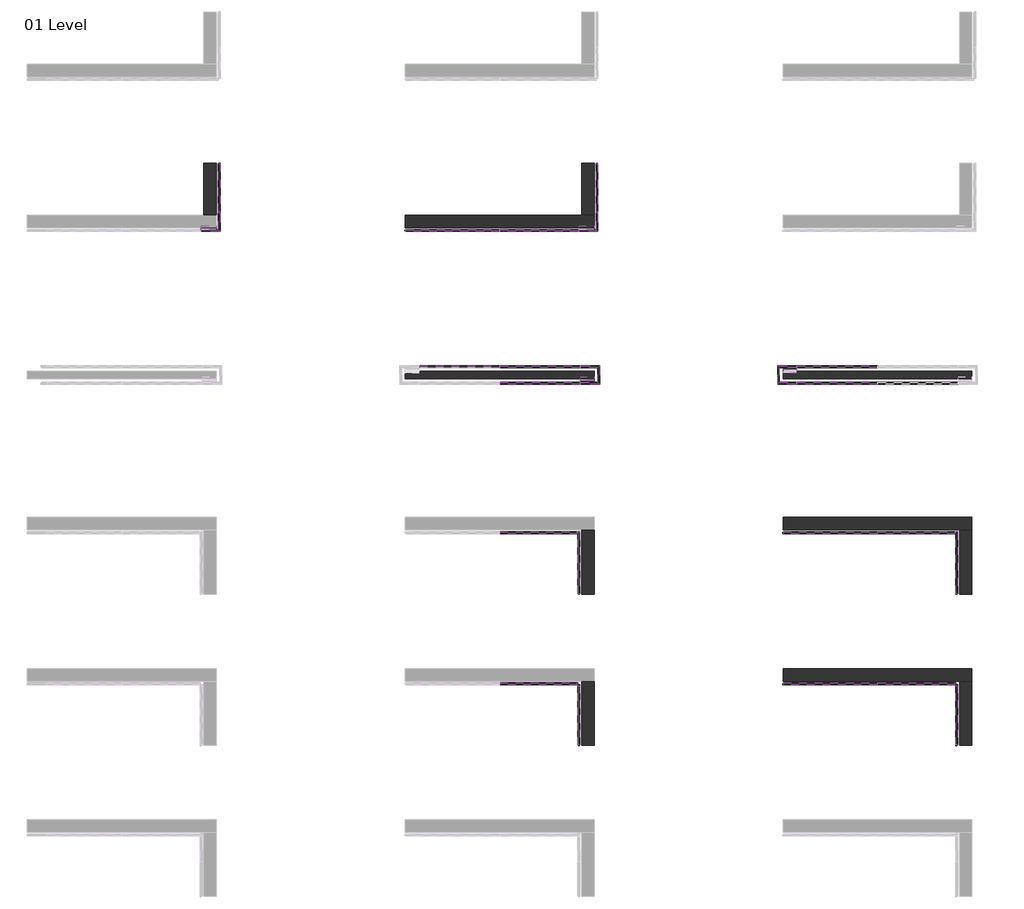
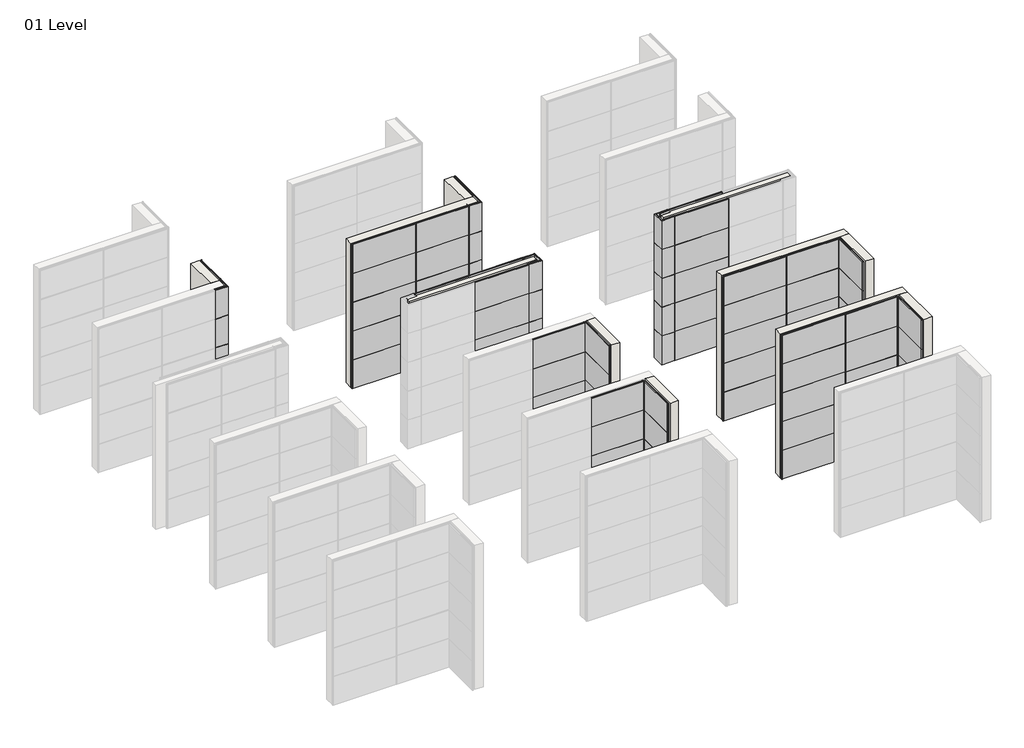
# One storey, part 4 of 9: 136 plates, 11 walls.
"""IFC4 building model written with IfcOpenShell, lengths in millimetres."""

from ifc_helpers import new_model, si_unit, origin, origin_with_axes, place, context, project, spatial, polyline, outline, extrude, faceted_brep, transform, mapped, element, save
from components import plate_b1b6f3ce, plate_0904af44, plate_7be3f5e4, plate_62757427, plate_482b14a9, plate_20576bf5, plate_82d913d7, plate_8f96e1f7, plate_62c4d9ae, plate_ce90e10d, plate_931cbc99, plate_97150e6f, plate_005167d4, plate_5372a68f, plate_7a612063, plate_bb49d724, empty_system_panel_empty_985d2cdc, empty_system_panel_empty_90a12fe6

model = new_model("IFC4")

# Units and contexts
model_context = context("Model", 3, world=origin())
ifc_project = project(units=[si_unit("LENGTHUNIT", "METRE", prefix="MILLI")], contexts=[model_context])

# Site, building, storey
site = spatial("IfcSite", under=ifc_project)
building = spatial("IfcBuilding", under=site)
storey = spatial("IfcBuildingStorey", under=building, Name="01 Level", Elevation=0.0)

# Plates
placement = place(None, origin())
plate_shape = plate_b1b6f3ce(model_context)
element("IfcPlate", 1, ObjectType="Trimo_Qbiss Screen_Normal Panel-HORIZONTAL : HR - B-F", at=placement, inside=storey, context=model_context, shape_type="MappedRepresentation", body=[
    mapped(plate_shape, transform((-23702.2237135, -2027.0213317, 0.0), x_axis=(0.0, -1.0, 0.0), y_axis=(1.0, 0.0, 0.0), z_axis=(0.0, 0.0, 1.0))),
])
element("IfcPlate", 2, ObjectType="Trimo_Qbiss Screen_Normal Panel-HORIZONTAL : HR - B-F", at=placement, inside=storey, context=model_context, shape_type="MappedRepresentation", body=[
    mapped(plate_shape, transform((-23702.2237135, -2027.0213317, 4800.0), x_axis=(0.0, -1.0, 0.0), y_axis=(1.0, 0.0, 0.0), z_axis=(0.0, 0.0, 1.0))),
])
element("IfcPlate", 3, ObjectType="Trimo_Qbiss Screen_Normal Panel-HORIZONTAL : HR - B-F", at=placement, inside=storey, context=model_context, shape_type="MappedRepresentation", body=[
    mapped(plate_shape, transform((-23702.2237135, -2027.0213317, 2400.0), x_axis=(0.0, -1.0, 0.0), y_axis=(1.0, 0.0, 0.0), z_axis=(0.0, 0.0, 1.0))),
])
element("IfcPlate", 4, ObjectType="Trimo_Qbiss Screen_Normal Panel-HORIZONTAL : HR - B-F", at=placement, inside=storey, context=model_context, shape_type="MappedRepresentation", body=[
    mapped(plate_shape, transform((-23702.2237135, -2027.0213317, 3600.0), x_axis=(0.0, -1.0, 0.0), y_axis=(1.0, 0.0, 0.0), z_axis=(0.0, 0.0, 1.0))),
])
element("IfcPlate", 5, ObjectType="Trimo_Qbiss Screen_Normal Panel-HORIZONTAL : HR - B-F", at=placement, inside=storey, context=model_context, shape_type="MappedRepresentation", body=[
    mapped(plate_shape, transform((-23702.2237135, -2027.0213317, 1200.0), x_axis=(0.0, -1.0, 0.0), y_axis=(1.0, 0.0, 0.0), z_axis=(0.0, 0.0, 1.0))),
])
plate_2_shape = plate_0904af44(model_context)
element("IfcPlate", 6, ObjectType="Trimo_Qbiss Screen_Normal Panel-HORIZONTAL : HR - FB", at=placement, inside=storey, context=model_context, shape_type="MappedRepresentation", body=[
    mapped(plate_2_shape, transform((-17452.2237135, -3083.2713317, 0.0), x_axis=(-1.0, 0.0, 0.0), y_axis=(0.0, -1.0, 0.0), z_axis=(0.0, 0.0, 1.0))),
])
element("IfcPlate", 7, ObjectType="Trimo_Qbiss Screen_Normal Panel-HORIZONTAL : HR - FB", at=placement, inside=storey, context=model_context, shape_type="MappedRepresentation", body=[
    mapped(plate_2_shape, transform((-17452.2237135, -3083.2713317, 4800.0), x_axis=(-1.0, 0.0, 0.0), y_axis=(0.0, -1.0, 0.0), z_axis=(0.0, 0.0, 1.0))),
])
element("IfcPlate", 8, ObjectType="Trimo_Qbiss Screen_Normal Panel-HORIZONTAL : HR - FB", at=placement, inside=storey, context=model_context, shape_type="MappedRepresentation", body=[
    mapped(plate_2_shape, transform((-17452.2237135, -3083.2713317, 2400.0), x_axis=(-1.0, 0.0, 0.0), y_axis=(0.0, -1.0, 0.0), z_axis=(0.0, 0.0, 1.0))),
])
element("IfcPlate", 9, ObjectType="Trimo_Qbiss Screen_Normal Panel-HORIZONTAL : HR - FB", at=placement, inside=storey, context=model_context, shape_type="MappedRepresentation", body=[
    mapped(plate_2_shape, transform((-17452.2237135, -3083.2713317, 3600.0), x_axis=(-1.0, 0.0, 0.0), y_axis=(0.0, -1.0, 0.0), z_axis=(0.0, 0.0, 1.0))),
])
element("IfcPlate", 10, ObjectType="Trimo_Qbiss Screen_Normal Panel-HORIZONTAL : HR - FB", at=placement, inside=storey, context=model_context, shape_type="MappedRepresentation", body=[
    mapped(plate_2_shape, transform((-17452.2237135, -3083.2713317, 1200.0), x_axis=(-1.0, 0.0, 0.0), y_axis=(0.0, -1.0, 0.0), z_axis=(0.0, 0.0, 1.0))),
])
plate_3_shape = plate_7be3f5e4(model_context)
element("IfcPlate", 11, ObjectType="Trimo_Qbiss Screen_Normal Panel-HORIZONTAL : HR - FB", at=placement, inside=storey, context=model_context, shape_type="MappedRepresentation", body=[
    mapped(plate_3_shape, transform((-15135.9737135, -7083.2713317, 0.0), x_axis=(-1.0, 0.0, 0.0), y_axis=(0.0, -1.0, 0.0), z_axis=(0.0, 0.0, 1.0))),
])
element("IfcPlate", 12, ObjectType="Trimo_Qbiss Screen_Normal Panel-HORIZONTAL : HR - FB", at=placement, inside=storey, context=model_context, shape_type="MappedRepresentation", body=[
    mapped(plate_3_shape, transform((-15135.9737135, -7083.2713317, 1200.0), x_axis=(-1.0, 0.0, 0.0), y_axis=(0.0, -1.0, 0.0), z_axis=(0.0, 0.0, 1.0))),
])
element("IfcPlate", 13, ObjectType="Trimo_Qbiss Screen_Normal Panel-HORIZONTAL : HR - FB", at=placement, inside=storey, context=model_context, shape_type="MappedRepresentation", body=[
    mapped(plate_3_shape, transform((-15135.9737135, -7083.2713317, 2400.0), x_axis=(-1.0, 0.0, 0.0), y_axis=(0.0, -1.0, 0.0), z_axis=(0.0, 0.0, 1.0))),
])
element("IfcPlate", 14, ObjectType="Trimo_Qbiss Screen_Normal Panel-HORIZONTAL : HR - FB", at=placement, inside=storey, context=model_context, shape_type="MappedRepresentation", body=[
    mapped(plate_3_shape, transform((-15135.9737135, -7083.2713317, 3600.0), x_axis=(-1.0, 0.0, 0.0), y_axis=(0.0, -1.0, 0.0), z_axis=(0.0, 0.0, 1.0))),
])
element("IfcPlate", 15, ObjectType="Trimo_Qbiss Screen_Normal Panel-HORIZONTAL : HR - FB", at=placement, inside=storey, context=model_context, shape_type="MappedRepresentation", body=[
    mapped(plate_3_shape, transform((-15135.9737135, -7083.2713317, 4800.0), x_axis=(-1.0, 0.0, 0.0), y_axis=(0.0, -1.0, 0.0), z_axis=(0.0, 0.0, 1.0))),
])
element("IfcPlate", 16, ObjectType="Trimo_Qbiss Screen_Normal Panel-HORIZONTAL : HR - FB", at=placement, inside=storey, context=model_context, shape_type="MappedRepresentation", body=[
    mapped(plate_3_shape, transform((-17268.4737135, -6883.2713317, 1200.0), x_axis=(1.0, 0.0, 0.0), y_axis=(0.0, 1.0, 0.0), z_axis=(0.0, 0.0, 1.0))),
])
element("IfcPlate", 17, ObjectType="Trimo_Qbiss Screen_Normal Panel-HORIZONTAL : HR - FB", at=placement, inside=storey, context=model_context, shape_type="MappedRepresentation", body=[
    mapped(plate_3_shape, transform((-17268.4737135, -6883.2713317, 2400.0), x_axis=(1.0, 0.0, 0.0), y_axis=(0.0, 1.0, 0.0), z_axis=(0.0, 0.0, 1.0))),
])
element("IfcPlate", 18, ObjectType="Trimo_Qbiss Screen_Normal Panel-HORIZONTAL : HR - FB", at=placement, inside=storey, context=model_context, shape_type="MappedRepresentation", body=[
    mapped(plate_3_shape, transform((-17268.4737135, -6883.2713317, 3600.0), x_axis=(1.0, 0.0, 0.0), y_axis=(0.0, 1.0, 0.0), z_axis=(0.0, 0.0, 1.0))),
])
element("IfcPlate", 19, ObjectType="Trimo_Qbiss Screen_Normal Panel-HORIZONTAL : HR - FB", at=placement, inside=storey, context=model_context, shape_type="MappedRepresentation", body=[
    mapped(plate_3_shape, transform((-17268.4737135, -6883.2713317, 4800.0), x_axis=(1.0, 0.0, 0.0), y_axis=(0.0, 1.0, 0.0), z_axis=(0.0, 0.0, 1.0))),
])
element("IfcPlate", 20, ObjectType="Trimo_Qbiss Screen_Normal Panel-HORIZONTAL : HR - FB", at=placement, inside=storey, context=model_context, shape_type="MappedRepresentation", body=[
    mapped(plate_3_shape, transform((-15135.9737135, -6883.2713317, 0.0), x_axis=(1.0, 0.0, 0.0), y_axis=(0.0, 1.0, 0.0), z_axis=(0.0, 0.0, 1.0))),
])
element("IfcPlate", 21, ObjectType="Trimo_Qbiss Screen_Normal Panel-HORIZONTAL : HR - FB", at=placement, inside=storey, context=model_context, shape_type="MappedRepresentation", body=[
    mapped(plate_3_shape, transform((-15135.9737135, -6883.2713317, 1200.0), x_axis=(1.0, 0.0, 0.0), y_axis=(0.0, 1.0, 0.0), z_axis=(0.0, 0.0, 1.0))),
])
element("IfcPlate", 22, ObjectType="Trimo_Qbiss Screen_Normal Panel-HORIZONTAL : HR - FB", at=placement, inside=storey, context=model_context, shape_type="MappedRepresentation", body=[
    mapped(plate_3_shape, transform((-15135.9737135, -6883.2713317, 2400.0), x_axis=(1.0, 0.0, 0.0), y_axis=(0.0, 1.0, 0.0), z_axis=(0.0, 0.0, 1.0))),
])
element("IfcPlate", 23, ObjectType="Trimo_Qbiss Screen_Normal Panel-HORIZONTAL : HR - FB", at=placement, inside=storey, context=model_context, shape_type="MappedRepresentation", body=[
    mapped(plate_3_shape, transform((-15135.9737135, -6883.2713317, 3600.0), x_axis=(1.0, 0.0, 0.0), y_axis=(0.0, 1.0, 0.0), z_axis=(0.0, 0.0, 1.0))),
])
element("IfcPlate", 24, ObjectType="Trimo_Qbiss Screen_Normal Panel-HORIZONTAL : HR - FB", at=placement, inside=storey, context=model_context, shape_type="MappedRepresentation", body=[
    mapped(plate_3_shape, transform((-15135.9737135, -6883.2713317, 4800.0), x_axis=(1.0, 0.0, 0.0), y_axis=(0.0, 1.0, 0.0), z_axis=(0.0, 0.0, 1.0))),
])
plate_4_shape = plate_62757427(model_context)
element("IfcPlate", 25, ObjectType="Trimo_Qbiss Screen_Normal Panel-HORIZONTAL : HR - FB", at=placement, inside=storey, context=model_context, shape_type="MappedRepresentation", body=[
    mapped(plate_4_shape, transform((-15117.2237135, -11083.2713317, 0.0), x_axis=(-1.0, 0.0, 0.0), y_axis=(0.0, -1.0, 0.0), z_axis=(0.0, 0.0, 1.0))),
])
element("IfcPlate", 26, ObjectType="Trimo_Qbiss Screen_Normal Panel-HORIZONTAL : HR - FB", at=placement, inside=storey, context=model_context, shape_type="MappedRepresentation", body=[
    mapped(plate_4_shape, transform((-15117.2237135, -11083.2713317, 4800.0), x_axis=(-1.0, 0.0, 0.0), y_axis=(0.0, -1.0, 0.0), z_axis=(0.0, 0.0, 1.0))),
])
element("IfcPlate", 27, ObjectType="Trimo_Qbiss Screen_Normal Panel-HORIZONTAL : HR - FB", at=placement, inside=storey, context=model_context, shape_type="MappedRepresentation", body=[
    mapped(plate_4_shape, transform((-15117.2237135, -11083.2713317, 2400.0), x_axis=(-1.0, 0.0, 0.0), y_axis=(0.0, -1.0, 0.0), z_axis=(0.0, 0.0, 1.0))),
])
element("IfcPlate", 28, ObjectType="Trimo_Qbiss Screen_Normal Panel-HORIZONTAL : HR - FB", at=placement, inside=storey, context=model_context, shape_type="MappedRepresentation", body=[
    mapped(plate_4_shape, transform((-15117.2237135, -11083.2713317, 3600.0), x_axis=(-1.0, 0.0, 0.0), y_axis=(0.0, -1.0, 0.0), z_axis=(0.0, 0.0, 1.0))),
])
element("IfcPlate", 29, ObjectType="Trimo_Qbiss Screen_Normal Panel-HORIZONTAL : HR - FB", at=placement, inside=storey, context=model_context, shape_type="MappedRepresentation", body=[
    mapped(plate_4_shape, transform((-15117.2237135, -11083.2713317, 1200.0), x_axis=(-1.0, 0.0, 0.0), y_axis=(0.0, -1.0, 0.0), z_axis=(0.0, 0.0, 1.0))),
])
element("IfcPlate", 30, ObjectType="Trimo_Qbiss Screen_Normal Panel-HORIZONTAL : HR - FB", at=placement, inside=storey, context=model_context, shape_type="MappedRepresentation", body=[
    mapped(plate_4_shape, transform((-15117.2237135, -15083.2713317, 0.0), x_axis=(-1.0, 0.0, 0.0), y_axis=(0.0, -1.0, 0.0), z_axis=(0.0, 0.0, 1.0))),
])
element("IfcPlate", 31, ObjectType="Trimo_Qbiss Screen_Normal Panel-HORIZONTAL : HR - FB", at=placement, inside=storey, context=model_context, shape_type="MappedRepresentation", body=[
    mapped(plate_4_shape, transform((-15117.2237135, -15083.2713317, 4800.0), x_axis=(-1.0, 0.0, 0.0), y_axis=(0.0, -1.0, 0.0), z_axis=(0.0, 0.0, 1.0))),
])
element("IfcPlate", 32, ObjectType="Trimo_Qbiss Screen_Normal Panel-HORIZONTAL : HR - FB", at=placement, inside=storey, context=model_context, shape_type="MappedRepresentation", body=[
    mapped(plate_4_shape, transform((-15117.2237135, -15083.2713317, 2400.0), x_axis=(-1.0, 0.0, 0.0), y_axis=(0.0, -1.0, 0.0), z_axis=(0.0, 0.0, 1.0))),
])
element("IfcPlate", 33, ObjectType="Trimo_Qbiss Screen_Normal Panel-HORIZONTAL : HR - FB", at=placement, inside=storey, context=model_context, shape_type="MappedRepresentation", body=[
    mapped(plate_4_shape, transform((-15117.2237135, -15083.2713317, 3600.0), x_axis=(-1.0, 0.0, 0.0), y_axis=(0.0, -1.0, 0.0), z_axis=(0.0, 0.0, 1.0))),
])
element("IfcPlate", 34, ObjectType="Trimo_Qbiss Screen_Normal Panel-HORIZONTAL : HR - FB", at=placement, inside=storey, context=model_context, shape_type="MappedRepresentation", body=[
    mapped(plate_4_shape, transform((-15117.2237135, -15083.2713317, 1200.0), x_axis=(-1.0, 0.0, 0.0), y_axis=(0.0, -1.0, 0.0), z_axis=(0.0, 0.0, 1.0))),
])
plate_5_shape = plate_482b14a9(model_context)
element("IfcPlate", 35, ObjectType="Trimo_Qbiss Screen_Normal Panel-HORIZONTAL : HR - FB", at=placement, inside=storey, context=model_context, shape_type="MappedRepresentation", body=[
    mapped(plate_5_shape, transform((-13702.2237135, -2027.0213317, 0.0), x_axis=(0.0, -1.0, 0.0), y_axis=(1.0, 0.0, 0.0), z_axis=(0.0, 0.0, 1.0))),
])
element("IfcPlate", 36, ObjectType="Trimo_Qbiss Screen_Normal Panel-HORIZONTAL : HR - FB", at=placement, inside=storey, context=model_context, shape_type="MappedRepresentation", body=[
    mapped(plate_5_shape, transform((-13702.2237135, -2027.0213317, 4800.0), x_axis=(0.0, -1.0, 0.0), y_axis=(1.0, 0.0, 0.0), z_axis=(0.0, 0.0, 1.0))),
])
element("IfcPlate", 37, ObjectType="Trimo_Qbiss Screen_Normal Panel-HORIZONTAL : HR - FB", at=placement, inside=storey, context=model_context, shape_type="MappedRepresentation", body=[
    mapped(plate_5_shape, transform((-13702.2237135, -2027.0213317, 2400.0), x_axis=(0.0, -1.0, 0.0), y_axis=(1.0, 0.0, 0.0), z_axis=(0.0, 0.0, 1.0))),
])
element("IfcPlate", 38, ObjectType="Trimo_Qbiss Screen_Normal Panel-HORIZONTAL : HR - FB", at=placement, inside=storey, context=model_context, shape_type="MappedRepresentation", body=[
    mapped(plate_5_shape, transform((-13702.2237135, -2027.0213317, 3600.0), x_axis=(0.0, -1.0, 0.0), y_axis=(1.0, 0.0, 0.0), z_axis=(0.0, 0.0, 1.0))),
])
element("IfcPlate", 39, ObjectType="Trimo_Qbiss Screen_Normal Panel-HORIZONTAL : HR - FB", at=placement, inside=storey, context=model_context, shape_type="MappedRepresentation", body=[
    mapped(plate_5_shape, transform((-13702.2237135, -2027.0213317, 1200.0), x_axis=(0.0, -1.0, 0.0), y_axis=(1.0, 0.0, 0.0), z_axis=(0.0, 0.0, 1.0))),
])
plate_6_shape = plate_20576bf5(model_context)
element("IfcPlate", 40, ObjectType="Trimo_Qbiss Screen_Normal Panel-HORIZONTAL : HR - FB", at=placement, inside=storey, context=model_context, shape_type="MappedRepresentation", body=[
    mapped(plate_6_shape, transform((-14032.2237135, -11933.2713317, 0.0), x_axis=(0.0, 1.0, 0.0), y_axis=(-1.0, 0.0, 0.0), z_axis=(0.0, 0.0, 1.0))),
])
element("IfcPlate", 41, ObjectType="Trimo_Qbiss Screen_Normal Panel-HORIZONTAL : HR - FB", at=placement, inside=storey, context=model_context, shape_type="MappedRepresentation", body=[
    mapped(plate_6_shape, transform((-14032.2237135, -11933.2713317, 4800.0), x_axis=(0.0, 1.0, 0.0), y_axis=(-1.0, 0.0, 0.0), z_axis=(0.0, 0.0, 1.0))),
])
element("IfcPlate", 42, ObjectType="Trimo_Qbiss Screen_Normal Panel-HORIZONTAL : HR - FB", at=placement, inside=storey, context=model_context, shape_type="MappedRepresentation", body=[
    mapped(plate_6_shape, transform((-14032.2237135, -11933.2713317, 2400.0), x_axis=(0.0, 1.0, 0.0), y_axis=(-1.0, 0.0, 0.0), z_axis=(0.0, 0.0, 1.0))),
])
element("IfcPlate", 43, ObjectType="Trimo_Qbiss Screen_Normal Panel-HORIZONTAL : HR - FB", at=placement, inside=storey, context=model_context, shape_type="MappedRepresentation", body=[
    mapped(plate_6_shape, transform((-14032.2237135, -11933.2713317, 3600.0), x_axis=(0.0, 1.0, 0.0), y_axis=(-1.0, 0.0, 0.0), z_axis=(0.0, 0.0, 1.0))),
])
element("IfcPlate", 44, ObjectType="Trimo_Qbiss Screen_Normal Panel-HORIZONTAL : HR - FB", at=placement, inside=storey, context=model_context, shape_type="MappedRepresentation", body=[
    mapped(plate_6_shape, transform((-14032.2237135, -11933.2713317, 1200.0), x_axis=(0.0, 1.0, 0.0), y_axis=(-1.0, 0.0, 0.0), z_axis=(0.0, 0.0, 1.0))),
])
plate_7_shape = plate_82d913d7(model_context)
element("IfcPlate", 45, ObjectType="Trimo_Qbiss Screen_Normal Panel-HORIZONTAL : HR - FB", at=placement, inside=storey, context=model_context, shape_type="MappedRepresentation", body=[
    mapped(plate_7_shape, transform((-14032.2237135, -15933.2713317, 0.0), x_axis=(0.0, 1.0, 0.0), y_axis=(-1.0, 0.0, 0.0), z_axis=(0.0, 0.0, 1.0))),
])
element("IfcPlate", 46, ObjectType="Trimo_Qbiss Screen_Normal Panel-HORIZONTAL : HR - FB", at=placement, inside=storey, context=model_context, shape_type="MappedRepresentation", body=[
    mapped(plate_7_shape, transform((-14032.2237135, -15933.2713317, 4800.0), x_axis=(0.0, 1.0, 0.0), y_axis=(-1.0, 0.0, 0.0), z_axis=(0.0, 0.0, 1.0))),
])
element("IfcPlate", 47, ObjectType="Trimo_Qbiss Screen_Normal Panel-HORIZONTAL : HR - FB", at=placement, inside=storey, context=model_context, shape_type="MappedRepresentation", body=[
    mapped(plate_7_shape, transform((-14032.2237135, -15933.2713317, 2400.0), x_axis=(0.0, 1.0, 0.0), y_axis=(-1.0, 0.0, 0.0), z_axis=(0.0, 0.0, 1.0))),
])
element("IfcPlate", 48, ObjectType="Trimo_Qbiss Screen_Normal Panel-HORIZONTAL : HR - FB", at=placement, inside=storey, context=model_context, shape_type="MappedRepresentation", body=[
    mapped(plate_7_shape, transform((-14032.2237135, -15933.2713317, 3600.0), x_axis=(0.0, 1.0, 0.0), y_axis=(-1.0, 0.0, 0.0), z_axis=(0.0, 0.0, 1.0))),
])
element("IfcPlate", 49, ObjectType="Trimo_Qbiss Screen_Normal Panel-HORIZONTAL : HR - FB", at=placement, inside=storey, context=model_context, shape_type="MappedRepresentation", body=[
    mapped(plate_7_shape, transform((-14032.2237135, -15933.2713317, 1200.0), x_axis=(0.0, 1.0, 0.0), y_axis=(-1.0, 0.0, 0.0), z_axis=(0.0, 0.0, 1.0))),
])
plate_8_shape = plate_8f96e1f7(model_context)
element("IfcPlate", 50, ObjectType="Trimo_Qbiss Screen_Normal Panel-HORIZONTAL : HR - FB", at=placement, inside=storey, context=model_context, shape_type="MappedRepresentation", body=[
    mapped(plate_8_shape, transform((-15158.4737135, -3083.2713317, 0.0), x_axis=(-1.0, 0.0, 0.0), y_axis=(0.0, -1.0, 0.0), z_axis=(0.0, 0.0, 1.0))),
])
element("IfcPlate", 51, ObjectType="Trimo_Qbiss Screen_Normal Panel-HORIZONTAL : HR - FB", at=placement, inside=storey, context=model_context, shape_type="MappedRepresentation", body=[
    mapped(plate_8_shape, transform((-15158.4737135, -3083.2713317, 1200.0), x_axis=(-1.0, 0.0, 0.0), y_axis=(0.0, -1.0, 0.0), z_axis=(0.0, 0.0, 1.0))),
])
element("IfcPlate", 52, ObjectType="Trimo_Qbiss Screen_Normal Panel-HORIZONTAL : HR - FB", at=placement, inside=storey, context=model_context, shape_type="MappedRepresentation", body=[
    mapped(plate_8_shape, transform((-15158.4737135, -3083.2713317, 2400.0), x_axis=(-1.0, 0.0, 0.0), y_axis=(0.0, -1.0, 0.0), z_axis=(0.0, 0.0, 1.0))),
])
element("IfcPlate", 53, ObjectType="Trimo_Qbiss Screen_Normal Panel-HORIZONTAL : HR - FB", at=placement, inside=storey, context=model_context, shape_type="MappedRepresentation", body=[
    mapped(plate_8_shape, transform((-15158.4737135, -3083.2713317, 3600.0), x_axis=(-1.0, 0.0, 0.0), y_axis=(0.0, -1.0, 0.0), z_axis=(0.0, 0.0, 1.0))),
])
element("IfcPlate", 54, ObjectType="Trimo_Qbiss Screen_Normal Panel-HORIZONTAL : HR - FB", at=placement, inside=storey, context=model_context, shape_type="MappedRepresentation", body=[
    mapped(plate_8_shape, transform((-15158.4737135, -3083.2713317, 4800.0), x_axis=(-1.0, 0.0, 0.0), y_axis=(0.0, -1.0, 0.0), z_axis=(0.0, 0.0, 1.0))),
])
plate_9_shape = plate_62c4d9ae(model_context)
element("IfcPlate", 55, ObjectType="Trimo_Qbiss Screen_Normal Panel-HORIZONTAL : HR - FB-F", at=placement, inside=storey, context=model_context, shape_type="MappedRepresentation", body=[
    mapped(plate_9_shape, transform((-7452.2237135, -11083.2713317, 0.0), x_axis=(-1.0, 0.0, 0.0), y_axis=(0.0, -1.0, 0.0), z_axis=(0.0, 0.0, 1.0))),
])
element("IfcPlate", 56, ObjectType="Trimo_Qbiss Screen_Normal Panel-HORIZONTAL : HR - FB-F", at=placement, inside=storey, context=model_context, shape_type="MappedRepresentation", body=[
    mapped(plate_9_shape, transform((-7452.2237135, -11083.2713317, 4800.0), x_axis=(-1.0, 0.0, 0.0), y_axis=(0.0, -1.0, 0.0), z_axis=(0.0, 0.0, 1.0))),
])
element("IfcPlate", 57, ObjectType="Trimo_Qbiss Screen_Normal Panel-HORIZONTAL : HR - FB-F", at=placement, inside=storey, context=model_context, shape_type="MappedRepresentation", body=[
    mapped(plate_9_shape, transform((-7452.2237135, -11083.2713317, 2400.0), x_axis=(-1.0, 0.0, 0.0), y_axis=(0.0, -1.0, 0.0), z_axis=(0.0, 0.0, 1.0))),
])
element("IfcPlate", 58, ObjectType="Trimo_Qbiss Screen_Normal Panel-HORIZONTAL : HR - FB-F", at=placement, inside=storey, context=model_context, shape_type="MappedRepresentation", body=[
    mapped(plate_9_shape, transform((-7452.2237135, -11083.2713317, 3600.0), x_axis=(-1.0, 0.0, 0.0), y_axis=(0.0, -1.0, 0.0), z_axis=(0.0, 0.0, 1.0))),
])
element("IfcPlate", 59, ObjectType="Trimo_Qbiss Screen_Normal Panel-HORIZONTAL : HR - FB-F", at=placement, inside=storey, context=model_context, shape_type="MappedRepresentation", body=[
    mapped(plate_9_shape, transform((-7452.2237135, -11083.2713317, 1200.0), x_axis=(-1.0, 0.0, 0.0), y_axis=(0.0, -1.0, 0.0), z_axis=(0.0, 0.0, 1.0))),
])
element("IfcPlate", 60, ObjectType="Trimo_Qbiss Screen_Normal Panel-HORIZONTAL : HR - FB-F", at=placement, inside=storey, context=model_context, shape_type="MappedRepresentation", body=[
    mapped(plate_9_shape, transform((-7452.2237135, -15083.2713317, 0.0), x_axis=(-1.0, 0.0, 0.0), y_axis=(0.0, -1.0, 0.0), z_axis=(0.0, 0.0, 1.0))),
])
element("IfcPlate", 61, ObjectType="Trimo_Qbiss Screen_Normal Panel-HORIZONTAL : HR - FB-F", at=placement, inside=storey, context=model_context, shape_type="MappedRepresentation", body=[
    mapped(plate_9_shape, transform((-7452.2237135, -15083.2713317, 4800.0), x_axis=(-1.0, 0.0, 0.0), y_axis=(0.0, -1.0, 0.0), z_axis=(0.0, 0.0, 1.0))),
])
element("IfcPlate", 62, ObjectType="Trimo_Qbiss Screen_Normal Panel-HORIZONTAL : HR - FB-F", at=placement, inside=storey, context=model_context, shape_type="MappedRepresentation", body=[
    mapped(plate_9_shape, transform((-7452.2237135, -15083.2713317, 2400.0), x_axis=(-1.0, 0.0, 0.0), y_axis=(0.0, -1.0, 0.0), z_axis=(0.0, 0.0, 1.0))),
])
element("IfcPlate", 63, ObjectType="Trimo_Qbiss Screen_Normal Panel-HORIZONTAL : HR - FB-F", at=placement, inside=storey, context=model_context, shape_type="MappedRepresentation", body=[
    mapped(plate_9_shape, transform((-7452.2237135, -15083.2713317, 3600.0), x_axis=(-1.0, 0.0, 0.0), y_axis=(0.0, -1.0, 0.0), z_axis=(0.0, 0.0, 1.0))),
])
element("IfcPlate", 64, ObjectType="Trimo_Qbiss Screen_Normal Panel-HORIZONTAL : HR - FB-F", at=placement, inside=storey, context=model_context, shape_type="MappedRepresentation", body=[
    mapped(plate_9_shape, transform((-7452.2237135, -15083.2713317, 1200.0), x_axis=(-1.0, 0.0, 0.0), y_axis=(0.0, -1.0, 0.0), z_axis=(0.0, 0.0, 1.0))),
])
plate_10_shape = plate_ce90e10d(model_context)
element("IfcPlate", 65, ObjectType="Trimo_Qbiss Screen_Normal Panel-HORIZONTAL : HR - FB-F", at=placement, inside=storey, context=model_context, shape_type="MappedRepresentation", body=[
    mapped(plate_10_shape, transform((-7268.4737135, -7083.2713317, 0.0), x_axis=(-1.0, 0.0, 0.0), y_axis=(0.0, -1.0, 0.0), z_axis=(0.0, 0.0, 1.0))),
])
element("IfcPlate", 66, ObjectType="Trimo_Qbiss Screen_Normal Panel-HORIZONTAL : HR - FB-F", at=placement, inside=storey, context=model_context, shape_type="MappedRepresentation", body=[
    mapped(plate_10_shape, transform((-7268.4737135, -7083.2713317, 4800.0), x_axis=(-1.0, 0.0, 0.0), y_axis=(0.0, -1.0, 0.0), z_axis=(0.0, 0.0, 1.0))),
])
element("IfcPlate", 67, ObjectType="Trimo_Qbiss Screen_Normal Panel-HORIZONTAL : HR - FB-F", at=placement, inside=storey, context=model_context, shape_type="MappedRepresentation", body=[
    mapped(plate_10_shape, transform((-7268.4737135, -7083.2713317, 2400.0), x_axis=(-1.0, 0.0, 0.0), y_axis=(0.0, -1.0, 0.0), z_axis=(0.0, 0.0, 1.0))),
])
element("IfcPlate", 68, ObjectType="Trimo_Qbiss Screen_Normal Panel-HORIZONTAL : HR - FB-F", at=placement, inside=storey, context=model_context, shape_type="MappedRepresentation", body=[
    mapped(plate_10_shape, transform((-7268.4737135, -7083.2713317, 3600.0), x_axis=(-1.0, 0.0, 0.0), y_axis=(0.0, -1.0, 0.0), z_axis=(0.0, 0.0, 1.0))),
])
element("IfcPlate", 69, ObjectType="Trimo_Qbiss Screen_Normal Panel-HORIZONTAL : HR - FB-F", at=placement, inside=storey, context=model_context, shape_type="MappedRepresentation", body=[
    mapped(plate_10_shape, transform((-7268.4737135, -7083.2713317, 1200.0), x_axis=(-1.0, 0.0, 0.0), y_axis=(0.0, -1.0, 0.0), z_axis=(0.0, 0.0, 1.0))),
])
element("IfcPlate", 70, ObjectType="Trimo_Qbiss Screen_Normal Panel-HORIZONTAL : HR - FB-F", at=placement, inside=storey, context=model_context, shape_type="MappedRepresentation", body=[
    mapped(plate_10_shape, transform((-5135.9737135, -7083.2713317, 0.0), x_axis=(-1.0, 0.0, 0.0), y_axis=(0.0, -1.0, 0.0), z_axis=(0.0, 0.0, 1.0))),
])
element("IfcPlate", 71, ObjectType="Trimo_Qbiss Screen_Normal Panel-HORIZONTAL : HR - FB-F", at=placement, inside=storey, context=model_context, shape_type="MappedRepresentation", body=[
    mapped(plate_10_shape, transform((-5135.9737135, -7083.2713317, 1200.0), x_axis=(-1.0, 0.0, 0.0), y_axis=(0.0, -1.0, 0.0), z_axis=(0.0, 0.0, 1.0))),
])
element("IfcPlate", 72, ObjectType="Trimo_Qbiss Screen_Normal Panel-HORIZONTAL : HR - FB-F", at=placement, inside=storey, context=model_context, shape_type="MappedRepresentation", body=[
    mapped(plate_10_shape, transform((-7268.4737135, -6883.2713317, 0.0), x_axis=(1.0, 0.0, 0.0), y_axis=(0.0, 1.0, 0.0), z_axis=(0.0, 0.0, 1.0))),
])
element("IfcPlate", 73, ObjectType="Trimo_Qbiss Screen_Normal Panel-HORIZONTAL : HR - FB-F", at=placement, inside=storey, context=model_context, shape_type="MappedRepresentation", body=[
    mapped(plate_10_shape, transform((-7268.4737135, -6883.2713317, 1200.0), x_axis=(1.0, 0.0, 0.0), y_axis=(0.0, 1.0, 0.0), z_axis=(0.0, 0.0, 1.0))),
])
element("IfcPlate", 74, ObjectType="Trimo_Qbiss Screen_Normal Panel-HORIZONTAL : HR - FB-F", at=placement, inside=storey, context=model_context, shape_type="MappedRepresentation", body=[
    mapped(plate_10_shape, transform((-7268.4737135, -6883.2713317, 2400.0), x_axis=(1.0, 0.0, 0.0), y_axis=(0.0, 1.0, 0.0), z_axis=(0.0, 0.0, 1.0))),
])
element("IfcPlate", 75, ObjectType="Trimo_Qbiss Screen_Normal Panel-HORIZONTAL : HR - FB-F", at=placement, inside=storey, context=model_context, shape_type="MappedRepresentation", body=[
    mapped(plate_10_shape, transform((-7268.4737135, -6883.2713317, 3600.0), x_axis=(1.0, 0.0, 0.0), y_axis=(0.0, 1.0, 0.0), z_axis=(0.0, 0.0, 1.0))),
])
element("IfcPlate", 76, ObjectType="Trimo_Qbiss Screen_Normal Panel-HORIZONTAL : HR - FB-F", at=placement, inside=storey, context=model_context, shape_type="MappedRepresentation", body=[
    mapped(plate_10_shape, transform((-7268.4737135, -6883.2713317, 4800.0), x_axis=(1.0, 0.0, 0.0), y_axis=(0.0, 1.0, 0.0), z_axis=(0.0, 0.0, 1.0))),
])
plate_11_shape = plate_931cbc99(model_context)
element("IfcPlate", 77, ObjectType="Trimo_Qbiss Screen_Normal Panel-HORIZONTAL : HR - FB-F", at=placement, inside=storey, context=model_context, shape_type="MappedRepresentation", body=[
    mapped(plate_11_shape, transform((-5117.2237135, -11083.2713317, 0.0), x_axis=(-1.0, 0.0, 0.0), y_axis=(0.0, -1.0, 0.0), z_axis=(0.0, 0.0, 1.0))),
])
element("IfcPlate", 78, ObjectType="Trimo_Qbiss Screen_Normal Panel-HORIZONTAL : HR - FB-F", at=placement, inside=storey, context=model_context, shape_type="MappedRepresentation", body=[
    mapped(plate_11_shape, transform((-5117.2237135, -11083.2713317, 4800.0), x_axis=(-1.0, 0.0, 0.0), y_axis=(0.0, -1.0, 0.0), z_axis=(0.0, 0.0, 1.0))),
])
element("IfcPlate", 79, ObjectType="Trimo_Qbiss Screen_Normal Panel-HORIZONTAL : HR - FB-F", at=placement, inside=storey, context=model_context, shape_type="MappedRepresentation", body=[
    mapped(plate_11_shape, transform((-5117.2237135, -11083.2713317, 2400.0), x_axis=(-1.0, 0.0, 0.0), y_axis=(0.0, -1.0, 0.0), z_axis=(0.0, 0.0, 1.0))),
])
element("IfcPlate", 80, ObjectType="Trimo_Qbiss Screen_Normal Panel-HORIZONTAL : HR - FB-F", at=placement, inside=storey, context=model_context, shape_type="MappedRepresentation", body=[
    mapped(plate_11_shape, transform((-5117.2237135, -11083.2713317, 3600.0), x_axis=(-1.0, 0.0, 0.0), y_axis=(0.0, -1.0, 0.0), z_axis=(0.0, 0.0, 1.0))),
])
element("IfcPlate", 81, ObjectType="Trimo_Qbiss Screen_Normal Panel-HORIZONTAL : HR - FB-F", at=placement, inside=storey, context=model_context, shape_type="MappedRepresentation", body=[
    mapped(plate_11_shape, transform((-5117.2237135, -11083.2713317, 1200.0), x_axis=(-1.0, 0.0, 0.0), y_axis=(0.0, -1.0, 0.0), z_axis=(0.0, 0.0, 1.0))),
])
element("IfcPlate", 82, ObjectType="Trimo_Qbiss Screen_Normal Panel-HORIZONTAL : HR - FB-F", at=placement, inside=storey, context=model_context, shape_type="MappedRepresentation", body=[
    mapped(plate_11_shape, transform((-5117.2237135, -15083.2713317, 0.0), x_axis=(-1.0, 0.0, 0.0), y_axis=(0.0, -1.0, 0.0), z_axis=(0.0, 0.0, 1.0))),
])
element("IfcPlate", 83, ObjectType="Trimo_Qbiss Screen_Normal Panel-HORIZONTAL : HR - FB-F", at=placement, inside=storey, context=model_context, shape_type="MappedRepresentation", body=[
    mapped(plate_11_shape, transform((-5117.2237135, -15083.2713317, 4800.0), x_axis=(-1.0, 0.0, 0.0), y_axis=(0.0, -1.0, 0.0), z_axis=(0.0, 0.0, 1.0))),
])
element("IfcPlate", 84, ObjectType="Trimo_Qbiss Screen_Normal Panel-HORIZONTAL : HR - FB-F", at=placement, inside=storey, context=model_context, shape_type="MappedRepresentation", body=[
    mapped(plate_11_shape, transform((-5117.2237135, -15083.2713317, 2400.0), x_axis=(-1.0, 0.0, 0.0), y_axis=(0.0, -1.0, 0.0), z_axis=(0.0, 0.0, 1.0))),
])
element("IfcPlate", 85, ObjectType="Trimo_Qbiss Screen_Normal Panel-HORIZONTAL : HR - FB-F", at=placement, inside=storey, context=model_context, shape_type="MappedRepresentation", body=[
    mapped(plate_11_shape, transform((-5117.2237135, -15083.2713317, 3600.0), x_axis=(-1.0, 0.0, 0.0), y_axis=(0.0, -1.0, 0.0), z_axis=(0.0, 0.0, 1.0))),
])
element("IfcPlate", 86, ObjectType="Trimo_Qbiss Screen_Normal Panel-HORIZONTAL : HR - FB-F", at=placement, inside=storey, context=model_context, shape_type="MappedRepresentation", body=[
    mapped(plate_11_shape, transform((-5117.2237135, -15083.2713317, 1200.0), x_axis=(-1.0, 0.0, 0.0), y_axis=(0.0, -1.0, 0.0), z_axis=(0.0, 0.0, 1.0))),
])
plate_12_shape = plate_97150e6f(model_context)
element("IfcPlate", 87, ObjectType="Trimo_Qbiss Screen_Normal Panel-HORIZONTAL : HR - FB-F", at=placement, inside=storey, context=model_context, shape_type="MappedRepresentation", body=[
    mapped(plate_12_shape, transform((-4032.2237135, -11933.2713317, 0.0), x_axis=(0.0, 1.0, 0.0), y_axis=(-1.0, 0.0, 0.0), z_axis=(0.0, 0.0, 1.0))),
])
element("IfcPlate", 88, ObjectType="Trimo_Qbiss Screen_Normal Panel-HORIZONTAL : HR - FB-F", at=placement, inside=storey, context=model_context, shape_type="MappedRepresentation", body=[
    mapped(plate_12_shape, transform((-4032.2237135, -11933.2713317, 4800.0), x_axis=(0.0, 1.0, 0.0), y_axis=(-1.0, 0.0, 0.0), z_axis=(0.0, 0.0, 1.0))),
])
element("IfcPlate", 89, ObjectType="Trimo_Qbiss Screen_Normal Panel-HORIZONTAL : HR - FB-F", at=placement, inside=storey, context=model_context, shape_type="MappedRepresentation", body=[
    mapped(plate_12_shape, transform((-4032.2237135, -11933.2713317, 2400.0), x_axis=(0.0, 1.0, 0.0), y_axis=(-1.0, 0.0, 0.0), z_axis=(0.0, 0.0, 1.0))),
])
element("IfcPlate", 90, ObjectType="Trimo_Qbiss Screen_Normal Panel-HORIZONTAL : HR - FB-F", at=placement, inside=storey, context=model_context, shape_type="MappedRepresentation", body=[
    mapped(plate_12_shape, transform((-4032.2237135, -11933.2713317, 3600.0), x_axis=(0.0, 1.0, 0.0), y_axis=(-1.0, 0.0, 0.0), z_axis=(0.0, 0.0, 1.0))),
])
element("IfcPlate", 91, ObjectType="Trimo_Qbiss Screen_Normal Panel-HORIZONTAL : HR - FB-F", at=placement, inside=storey, context=model_context, shape_type="MappedRepresentation", body=[
    mapped(plate_12_shape, transform((-4032.2237135, -11933.2713317, 1200.0), x_axis=(0.0, 1.0, 0.0), y_axis=(-1.0, 0.0, 0.0), z_axis=(0.0, 0.0, 1.0))),
])
plate_13_shape = plate_005167d4(model_context)
element("IfcPlate", 92, ObjectType="Trimo_Qbiss Screen_Normal Panel-HORIZONTAL : HR - FB-F", at=placement, inside=storey, context=model_context, shape_type="MappedRepresentation", body=[
    mapped(plate_13_shape, transform((-4032.2237135, -15933.2713317, 0.0), x_axis=(0.0, 1.0, 0.0), y_axis=(-1.0, 0.0, 0.0), z_axis=(0.0, 0.0, 1.0))),
])
element("IfcPlate", 93, ObjectType="Trimo_Qbiss Screen_Normal Panel-HORIZONTAL : HR - FB-F", at=placement, inside=storey, context=model_context, shape_type="MappedRepresentation", body=[
    mapped(plate_13_shape, transform((-4032.2237135, -15933.2713317, 4800.0), x_axis=(0.0, 1.0, 0.0), y_axis=(-1.0, 0.0, 0.0), z_axis=(0.0, 0.0, 1.0))),
])
element("IfcPlate", 94, ObjectType="Trimo_Qbiss Screen_Normal Panel-HORIZONTAL : HR - FB-F", at=placement, inside=storey, context=model_context, shape_type="MappedRepresentation", body=[
    mapped(plate_13_shape, transform((-4032.2237135, -15933.2713317, 2400.0), x_axis=(0.0, 1.0, 0.0), y_axis=(-1.0, 0.0, 0.0), z_axis=(0.0, 0.0, 1.0))),
])
element("IfcPlate", 95, ObjectType="Trimo_Qbiss Screen_Normal Panel-HORIZONTAL : HR - FB-F", at=placement, inside=storey, context=model_context, shape_type="MappedRepresentation", body=[
    mapped(plate_13_shape, transform((-4032.2237135, -15933.2713317, 3600.0), x_axis=(0.0, 1.0, 0.0), y_axis=(-1.0, 0.0, 0.0), z_axis=(0.0, 0.0, 1.0))),
])
element("IfcPlate", 96, ObjectType="Trimo_Qbiss Screen_Normal Panel-HORIZONTAL : HR - FB-F", at=placement, inside=storey, context=model_context, shape_type="MappedRepresentation", body=[
    mapped(plate_13_shape, transform((-4032.2237135, -15933.2713317, 1200.0), x_axis=(0.0, 1.0, 0.0), y_axis=(-1.0, 0.0, 0.0), z_axis=(0.0, 0.0, 1.0))),
])
plate_14_shape = plate_5372a68f(model_context)
element("IfcPlate", 97, ObjectType="Trimo_Qbiss Screen_U Corner Panel-HORIZONTAL : HR - FB", at=placement, inside=storey, context=model_context, shape_type="MappedRepresentation", body=[
    mapped(plate_14_shape, transform((-13885.9737135, -6883.2713317, 0.0), x_axis=(1.0, 0.0, 0.0), y_axis=(0.0, 1.0, 0.0), z_axis=(0.0, 0.0, 1.0))),
])
element("IfcPlate", 98, ObjectType="Trimo_Qbiss Screen_U Corner Panel-HORIZONTAL : HR - FB", at=placement, inside=storey, context=model_context, shape_type="MappedRepresentation", body=[
    mapped(plate_14_shape, transform((-13885.9737135, -6883.2713317, 1200.0), x_axis=(1.0, 0.0, 0.0), y_axis=(0.0, 1.0, 0.0), z_axis=(0.0, 0.0, 1.0))),
])
element("IfcPlate", 99, ObjectType="Trimo_Qbiss Screen_U Corner Panel-HORIZONTAL : HR - FB", at=placement, inside=storey, context=model_context, shape_type="MappedRepresentation", body=[
    mapped(plate_14_shape, transform((-13885.9737135, -6883.2713317, 2400.0), x_axis=(1.0, 0.0, 0.0), y_axis=(0.0, 1.0, 0.0), z_axis=(0.0, 0.0, 1.0))),
])
element("IfcPlate", 100, ObjectType="Trimo_Qbiss Screen_U Corner Panel-HORIZONTAL : HR - FB", at=placement, inside=storey, context=model_context, shape_type="MappedRepresentation", body=[
    mapped(plate_14_shape, transform((-13885.9737135, -6883.2713317, 3600.0), x_axis=(1.0, 0.0, 0.0), y_axis=(0.0, 1.0, 0.0), z_axis=(0.0, 0.0, 1.0))),
])
element("IfcPlate", 101, ObjectType="Trimo_Qbiss Screen_U Corner Panel-HORIZONTAL : HR - FB", at=placement, inside=storey, context=model_context, shape_type="MappedRepresentation", body=[
    mapped(plate_14_shape, transform((-13885.9737135, -6883.2713317, 4800.0), x_axis=(1.0, 0.0, 0.0), y_axis=(0.0, 1.0, 0.0), z_axis=(0.0, 0.0, 1.0))),
])
element("IfcPlate", 102, ObjectType="Trimo_Qbiss Screen_U Corner Panel-HORIZONTAL : HR - FB-F", at=placement, inside=storey, context=model_context, shape_type="MappedRepresentation", body=[
    mapped(plate_14_shape, transform((-8518.4737135, -7083.2713317, 0.0), x_axis=(-1.0, 0.0, 0.0), y_axis=(0.0, -1.0, 0.0), z_axis=(0.0, 0.0, 1.0))),
])
element("IfcPlate", 103, ObjectType="Trimo_Qbiss Screen_U Corner Panel-HORIZONTAL : HR - FB-F", at=placement, inside=storey, context=model_context, shape_type="MappedRepresentation", body=[
    mapped(plate_14_shape, transform((-8518.4737135, -7083.2713317, 1200.0), x_axis=(-1.0, 0.0, 0.0), y_axis=(0.0, -1.0, 0.0), z_axis=(0.0, 0.0, 1.0))),
])
element("IfcPlate", 104, ObjectType="Trimo_Qbiss Screen_U Corner Panel-HORIZONTAL : HR - FB-F", at=placement, inside=storey, context=model_context, shape_type="MappedRepresentation", body=[
    mapped(plate_14_shape, transform((-8518.4737135, -7083.2713317, 2400.0), x_axis=(-1.0, 0.0, 0.0), y_axis=(0.0, -1.0, 0.0), z_axis=(0.0, 0.0, 1.0))),
])
element("IfcPlate", 105, ObjectType="Trimo_Qbiss Screen_U Corner Panel-HORIZONTAL : HR - FB-F", at=placement, inside=storey, context=model_context, shape_type="MappedRepresentation", body=[
    mapped(plate_14_shape, transform((-8518.4737135, -7083.2713317, 3600.0), x_axis=(-1.0, 0.0, 0.0), y_axis=(0.0, -1.0, 0.0), z_axis=(0.0, 0.0, 1.0))),
])
element("IfcPlate", 106, ObjectType="Trimo_Qbiss Screen_U Corner Panel-HORIZONTAL : HR - FB-F", at=placement, inside=storey, context=model_context, shape_type="MappedRepresentation", body=[
    mapped(plate_14_shape, transform((-8518.4737135, -7083.2713317, 4800.0), x_axis=(-1.0, 0.0, 0.0), y_axis=(0.0, -1.0, 0.0), z_axis=(0.0, 0.0, 1.0))),
])
plate_15_shape = plate_7a612063(model_context)
element("IfcPlate", 107, ObjectType="Trimo_Qbiss Screen_L Corner Panel-HORIZONTAL : HR - B-F", at=placement, inside=storey, context=model_context, shape_type="MappedRepresentation", body=[
    mapped(plate_15_shape, transform((-23702.2237135, -2877.0213317, 0.0), x_axis=(0.0, -1.0, 0.0), y_axis=(1.0, 0.0, 0.0), z_axis=(0.0, 0.0, 1.0))),
])
element("IfcPlate", 108, ObjectType="Trimo_Qbiss Screen_L Corner Panel-HORIZONTAL : HR - B-F", at=placement, inside=storey, context=model_context, shape_type="MappedRepresentation", body=[
    mapped(plate_15_shape, transform((-23702.2237135, -2877.0213317, 1200.0), x_axis=(0.0, -1.0, 0.0), y_axis=(1.0, 0.0, 0.0), z_axis=(0.0, 0.0, 1.0))),
])
element("IfcPlate", 109, ObjectType="Trimo_Qbiss Screen_L Corner Panel-HORIZONTAL : HR - B-F", at=placement, inside=storey, context=model_context, shape_type="MappedRepresentation", body=[
    mapped(plate_15_shape, transform((-23702.2237135, -2877.0213317, 2400.0), x_axis=(0.0, -1.0, 0.0), y_axis=(1.0, 0.0, 0.0), z_axis=(0.0, 0.0, 1.0))),
])
element("IfcPlate", 110, ObjectType="Trimo_Qbiss Screen_L Corner Panel-HORIZONTAL : HR - B-F", at=placement, inside=storey, context=model_context, shape_type="MappedRepresentation", body=[
    mapped(plate_15_shape, transform((-23702.2237135, -2877.0213317, 3600.0), x_axis=(0.0, -1.0, 0.0), y_axis=(1.0, 0.0, 0.0), z_axis=(0.0, 0.0, 1.0))),
])
element("IfcPlate", 111, ObjectType="Trimo_Qbiss Screen_L Corner Panel-HORIZONTAL : HR - B-F", at=placement, inside=storey, context=model_context, shape_type="MappedRepresentation", body=[
    mapped(plate_15_shape, transform((-23702.2237135, -2877.0213317, 4800.0), x_axis=(0.0, -1.0, 0.0), y_axis=(1.0, 0.0, 0.0), z_axis=(0.0, 0.0, 1.0))),
])
plate_16_shape = plate_bb49d724(model_context)
element("IfcPlate", 112, ObjectType="Trimo_Qbiss Screen_L Corner Panel-HORIZONTAL : HR - FB", at=placement, inside=storey, context=model_context, shape_type="MappedRepresentation", body=[
    mapped(plate_16_shape, transform((-13702.2237135, -2877.0213317, 0.0), x_axis=(0.0, -1.0, 0.0), y_axis=(1.0, 0.0, 0.0), z_axis=(0.0, 0.0, 1.0))),
])
element("IfcPlate", 113, ObjectType="Trimo_Qbiss Screen_L Corner Panel-HORIZONTAL : HR - FB", at=placement, inside=storey, context=model_context, shape_type="MappedRepresentation", body=[
    mapped(plate_16_shape, transform((-13702.2237135, -2877.0213317, 1200.0), x_axis=(0.0, -1.0, 0.0), y_axis=(1.0, 0.0, 0.0), z_axis=(0.0, 0.0, 1.0))),
])
element("IfcPlate", 114, ObjectType="Trimo_Qbiss Screen_L Corner Panel-HORIZONTAL : HR - FB", at=placement, inside=storey, context=model_context, shape_type="MappedRepresentation", body=[
    mapped(plate_16_shape, transform((-13702.2237135, -2877.0213317, 2400.0), x_axis=(0.0, -1.0, 0.0), y_axis=(1.0, 0.0, 0.0), z_axis=(0.0, 0.0, 1.0))),
])
element("IfcPlate", 115, ObjectType="Trimo_Qbiss Screen_L Corner Panel-HORIZONTAL : HR - FB", at=placement, inside=storey, context=model_context, shape_type="MappedRepresentation", body=[
    mapped(plate_16_shape, transform((-13702.2237135, -2877.0213317, 3600.0), x_axis=(0.0, -1.0, 0.0), y_axis=(1.0, 0.0, 0.0), z_axis=(0.0, 0.0, 1.0))),
])
element("IfcPlate", 116, ObjectType="Trimo_Qbiss Screen_L Corner Panel-HORIZONTAL : HR - FB", at=placement, inside=storey, context=model_context, shape_type="MappedRepresentation", body=[
    mapped(plate_16_shape, transform((-13702.2237135, -2877.0213317, 4800.0), x_axis=(0.0, -1.0, 0.0), y_axis=(1.0, 0.0, 0.0), z_axis=(0.0, 0.0, 1.0))),
])
empty_system_panel_empty_shape = empty_system_panel_empty_985d2cdc(model_context)
element("IfcPlate", 117, ObjectType="Empty System Panel : Empty", at=placement, inside=storey, context=model_context, shape_type="MappedRepresentation", body=[
    mapped(empty_system_panel_empty_shape, transform((-23908.4737135, -3083.2713317, 0.0), x_axis=(-1.0, 0.0, 0.0), y_axis=(0.0, -1.0, 0.0), z_axis=(0.0, 0.0, 1.0))),
])
element("IfcPlate", 118, ObjectType="Empty System Panel : Empty", at=placement, inside=storey, context=model_context, shape_type="MappedRepresentation", body=[
    mapped(empty_system_panel_empty_shape, transform((-23908.4737135, -3083.2713317, 4800.0), x_axis=(-1.0, 0.0, 0.0), y_axis=(0.0, -1.0, 0.0), z_axis=(0.0, 0.0, 1.0))),
])
element("IfcPlate", 119, ObjectType="Empty System Panel : Empty", at=placement, inside=storey, context=model_context, shape_type="MappedRepresentation", body=[
    mapped(empty_system_panel_empty_shape, transform((-23908.4737135, -3083.2713317, 2400.0), x_axis=(-1.0, 0.0, 0.0), y_axis=(0.0, -1.0, 0.0), z_axis=(0.0, 0.0, 1.0))),
])
element("IfcPlate", 120, ObjectType="Empty System Panel : Empty", at=placement, inside=storey, context=model_context, shape_type="MappedRepresentation", body=[
    mapped(empty_system_panel_empty_shape, transform((-23908.4737135, -3083.2713317, 3600.0), x_axis=(-1.0, 0.0, 0.0), y_axis=(0.0, -1.0, 0.0), z_axis=(0.0, 0.0, 1.0))),
])
element("IfcPlate", 121, ObjectType="Empty System Panel : Empty", at=placement, inside=storey, context=model_context, shape_type="MappedRepresentation", body=[
    mapped(empty_system_panel_empty_shape, transform((-23908.4737135, -3083.2713317, 1200.0), x_axis=(-1.0, 0.0, 0.0), y_axis=(0.0, -1.0, 0.0), z_axis=(0.0, 0.0, 1.0))),
])
element("IfcPlate", 122, ObjectType="Empty System Panel : Empty", at=placement, inside=storey, context=model_context, shape_type="MappedRepresentation", body=[
    mapped(empty_system_panel_empty_shape, transform((-13908.4737135, -3083.2713317, 0.0), x_axis=(-1.0, 0.0, 0.0), y_axis=(0.0, -1.0, 0.0), z_axis=(0.0, 0.0, 1.0))),
])
element("IfcPlate", 123, ObjectType="Empty System Panel : Empty", at=placement, inside=storey, context=model_context, shape_type="MappedRepresentation", body=[
    mapped(empty_system_panel_empty_shape, transform((-13908.4737135, -3083.2713317, 4800.0), x_axis=(-1.0, 0.0, 0.0), y_axis=(0.0, -1.0, 0.0), z_axis=(0.0, 0.0, 1.0))),
])
element("IfcPlate", 124, ObjectType="Empty System Panel : Empty", at=placement, inside=storey, context=model_context, shape_type="MappedRepresentation", body=[
    mapped(empty_system_panel_empty_shape, transform((-13908.4737135, -3083.2713317, 2400.0), x_axis=(-1.0, 0.0, 0.0), y_axis=(0.0, -1.0, 0.0), z_axis=(0.0, 0.0, 1.0))),
])
element("IfcPlate", 125, ObjectType="Empty System Panel : Empty", at=placement, inside=storey, context=model_context, shape_type="MappedRepresentation", body=[
    mapped(empty_system_panel_empty_shape, transform((-13908.4737135, -3083.2713317, 3600.0), x_axis=(-1.0, 0.0, 0.0), y_axis=(0.0, -1.0, 0.0), z_axis=(0.0, 0.0, 1.0))),
])
element("IfcPlate", 126, ObjectType="Empty System Panel : Empty", at=placement, inside=storey, context=model_context, shape_type="MappedRepresentation", body=[
    mapped(empty_system_panel_empty_shape, transform((-13908.4737135, -3083.2713317, 1200.0), x_axis=(-1.0, 0.0, 0.0), y_axis=(0.0, -1.0, 0.0), z_axis=(0.0, 0.0, 1.0))),
])
empty_system_panel_empty_2_shape = empty_system_panel_empty_90a12fe6(model_context)
element("IfcPlate", 127, ObjectType="Empty System Panel : Empty", at=placement, inside=storey, context=model_context, shape_type="MappedRepresentation", body=[
    mapped(empty_system_panel_empty_2_shape, transform((-13885.9737135, -7083.2713317, 0.0), x_axis=(-1.0, 0.0, 0.0), y_axis=(0.0, -1.0, 0.0), z_axis=(0.0, 0.0, 1.0))),
])
element("IfcPlate", 128, ObjectType="Empty System Panel : Empty", at=placement, inside=storey, context=model_context, shape_type="MappedRepresentation", body=[
    mapped(empty_system_panel_empty_2_shape, transform((-13885.9737135, -7083.2713317, 4800.0), x_axis=(-1.0, 0.0, 0.0), y_axis=(0.0, -1.0, 0.0), z_axis=(0.0, 0.0, 1.0))),
])
element("IfcPlate", 129, ObjectType="Empty System Panel : Empty", at=placement, inside=storey, context=model_context, shape_type="MappedRepresentation", body=[
    mapped(empty_system_panel_empty_2_shape, transform((-13885.9737135, -7083.2713317, 2400.0), x_axis=(-1.0, 0.0, 0.0), y_axis=(0.0, -1.0, 0.0), z_axis=(0.0, 0.0, 1.0))),
])
element("IfcPlate", 130, ObjectType="Empty System Panel : Empty", at=placement, inside=storey, context=model_context, shape_type="MappedRepresentation", body=[
    mapped(empty_system_panel_empty_2_shape, transform((-13885.9737135, -7083.2713317, 3600.0), x_axis=(-1.0, 0.0, 0.0), y_axis=(0.0, -1.0, 0.0), z_axis=(0.0, 0.0, 1.0))),
])
element("IfcPlate", 131, ObjectType="Empty System Panel : Empty", at=placement, inside=storey, context=model_context, shape_type="MappedRepresentation", body=[
    mapped(empty_system_panel_empty_2_shape, transform((-13885.9737135, -7083.2713317, 1200.0), x_axis=(-1.0, 0.0, 0.0), y_axis=(0.0, -1.0, 0.0), z_axis=(0.0, 0.0, 1.0))),
])
element("IfcPlate", 132, ObjectType="Empty System Panel : Empty", at=placement, inside=storey, context=model_context, shape_type="MappedRepresentation", body=[
    mapped(empty_system_panel_empty_2_shape, transform((-8518.4737135, -6883.2713317, 0.0), x_axis=(1.0, 0.0, 0.0), y_axis=(0.0, 1.0, 0.0), z_axis=(0.0, 0.0, 1.0))),
])
element("IfcPlate", 133, ObjectType="Empty System Panel : Empty", at=placement, inside=storey, context=model_context, shape_type="MappedRepresentation", body=[
    mapped(empty_system_panel_empty_2_shape, transform((-8518.4737135, -6883.2713317, 4800.0), x_axis=(1.0, 0.0, 0.0), y_axis=(0.0, 1.0, 0.0), z_axis=(0.0, 0.0, 1.0))),
])
element("IfcPlate", 134, ObjectType="Empty System Panel : Empty", at=placement, inside=storey, context=model_context, shape_type="MappedRepresentation", body=[
    mapped(empty_system_panel_empty_2_shape, transform((-8518.4737135, -6883.2713317, 2400.0), x_axis=(1.0, 0.0, 0.0), y_axis=(0.0, 1.0, 0.0), z_axis=(0.0, 0.0, 1.0))),
])
element("IfcPlate", 135, ObjectType="Empty System Panel : Empty", at=placement, inside=storey, context=model_context, shape_type="MappedRepresentation", body=[
    mapped(empty_system_panel_empty_2_shape, transform((-8518.4737135, -6883.2713317, 3600.0), x_axis=(1.0, 0.0, 0.0), y_axis=(0.0, 1.0, 0.0), z_axis=(0.0, 0.0, 1.0))),
])
element("IfcPlate", 136, ObjectType="Empty System Panel : Empty", at=placement, inside=storey, context=model_context, shape_type="MappedRepresentation", body=[
    mapped(empty_system_panel_empty_2_shape, transform((-8518.4737135, -6883.2713317, 1200.0), x_axis=(1.0, 0.0, 0.0), y_axis=(0.0, 1.0, 0.0), z_axis=(0.0, 0.0, 1.0))),
])

# Walls
element("IfcWall", 137, ObjectType="Wall - Showcase Project Wall - 330", at=placement, inside=storey, context=model_context, shape_type="SweptSolid", body=[
    extrude(outline(polyline([(-23702.2237135, -1383.2713317), (-23702.2237135, -2753.2713317), (-24032.2237135, -2753.2713317), (-24032.2237135, -1383.2713317), (-23702.2237135, -1383.2713317)])), origin_with_axes(), (0.0, 0.0, 1.0), 6000.0),
])
element("IfcWall", 138, ObjectType="Wall - Showcase Project Wall - 330", at=placement, inside=storey, context=model_context, shape_type="SweptSolid", body=[
    extrude(outline(polyline([(-14032.2237135, -12783.2713317), (-14032.2237135, -11083.2713317), (-13702.2237135, -11083.2713317), (-13702.2237135, -12783.2713317), (-14032.2237135, -12783.2713317)])), origin_with_axes(), (0.0, 0.0, 1.0), 6000.0),
])
element("IfcWall", 139, ObjectType="Wall - Showcase Project Wall - 330", at=placement, inside=storey, context=model_context, shape_type="SweptSolid", body=[
    extrude(outline(polyline([(-14032.2237135, -16783.2713317), (-14032.2237135, -15083.2713317), (-13702.2237135, -15083.2713317), (-13702.2237135, -16783.2713317), (-14032.2237135, -16783.2713317)])), origin_with_axes(), (0.0, 0.0, 1.0), 6000.0),
])
element("IfcWall", 140, ObjectType="Wall - Showcase Project Wall - 330", at=placement, inside=storey, context=model_context, shape_type="Brep", body=[
    faceted_brep([(-13702.2237135, -2753.2713317, 0.0), (-14032.2237135, -2753.2713317, 0.0), (-18702.2237135, -2753.2713317, 0.0), (-18702.2237135, -2753.2713317, 6000.0), (-14032.2237135, -2753.2713317, 6000.0), (-13702.2237135, -2753.2713317, 6000.0), (-13702.2237135, -3083.2713317, 0.0), (-13702.2237135, -3083.2713317, 6000.0), (-18702.2237135, -3083.2713317, 6000.0), (-18702.2237135, -3083.2713317, 0.0)], [[[0, 1, 2, 3, 4, 5]], [[6, 7, 8, 9]], [[2, 1, 0, 6, 9]], [[3, 2, 9, 8]], [[5, 4, 3, 8, 7]], [[0, 5, 7, 6]]]),
])
element("IfcWall", 141, ObjectType="Wall - Showcase Project Wall - 330", at=placement, inside=storey, context=model_context, shape_type="SweptSolid", body=[
    extrude(outline(polyline([(-13702.2237135, -1383.2713317), (-13702.2237135, -2753.2713317), (-14032.2237135, -2753.2713317), (-14032.2237135, -1383.2713317), (-13702.2237135, -1383.2713317)])), origin_with_axes(), (0.0, 0.0, 1.0), 6000.0),
])
element("IfcWall", 142, ObjectType="Wall - Showcase Project Wall - 200", at=placement, inside=storey, context=model_context, shape_type="SweptSolid", body=[
    extrude(outline(polyline([(-18702.2237135, -6883.2713317), (-13702.2237135, -6883.2713317), (-13702.2237135, -7083.2713317), (-18702.2237135, -7083.2713317), (-18702.2237135, -6883.2713317)])), origin_with_axes(), (0.0, 0.0, 1.0), 6000.0),
])
element("IfcWall", 143, ObjectType="Wall - Showcase Project Wall - 330", at=placement, inside=storey, context=model_context, shape_type="Brep", body=[
    faceted_brep([(-3702.2237135, -10753.2713317, 0.0), (-8702.2237135, -10753.2713317, 0.0), (-8702.2237135, -10753.2713317, 6000.0), (-3702.2237135, -10753.2713317, 6000.0), (-3702.2237135, -11083.2713317, 0.0), (-3702.2237135, -11083.2713317, 6000.0), (-4032.2237135, -11083.2713317, 6000.0), (-8702.2237135, -11083.2713317, 6000.0), (-8702.2237135, -11083.2713317, 0.0), (-4032.2237135, -11083.2713317, 0.0)], [[[0, 1, 2, 3]], [[4, 5, 6, 7, 8, 9]], [[1, 0, 4, 9, 8]], [[2, 1, 8, 7]], [[3, 2, 7, 6, 5]], [[0, 3, 5, 4]]]),
])
element("IfcWall", 144, ObjectType="Wall - Showcase Project Wall - 330", at=placement, inside=storey, context=model_context, shape_type="SweptSolid", body=[
    extrude(outline(polyline([(-4032.2237135, -12783.2713317), (-4032.2237135, -11083.2713317), (-3702.2237135, -11083.2713317), (-3702.2237135, -12783.2713317), (-4032.2237135, -12783.2713317)])), origin_with_axes(), (0.0, 0.0, 1.0), 6000.0),
])
element("IfcWall", 145, ObjectType="Wall - Showcase Project Wall - 330", at=placement, inside=storey, context=model_context, shape_type="Brep", body=[
    faceted_brep([(-3702.2237135, -14753.2713317, 0.0), (-8702.2237135, -14753.2713317, 0.0), (-8702.2237135, -14753.2713317, 6000.0), (-3702.2237135, -14753.2713317, 6000.0), (-3702.2237135, -15083.2713317, 0.0), (-3702.2237135, -15083.2713317, 6000.0), (-4032.2237135, -15083.2713317, 6000.0), (-8702.2237135, -15083.2713317, 6000.0), (-8702.2237135, -15083.2713317, 0.0), (-4032.2237135, -15083.2713317, 0.0)], [[[0, 1, 2, 3]], [[4, 5, 6, 7, 8, 9]], [[1, 0, 4, 9, 8]], [[2, 1, 8, 7]], [[3, 2, 7, 6, 5]], [[0, 3, 5, 4]]]),
])
element("IfcWall", 146, ObjectType="Wall - Showcase Project Wall - 330", at=placement, inside=storey, context=model_context, shape_type="SweptSolid", body=[
    extrude(outline(polyline([(-4032.2237135, -16783.2713317), (-4032.2237135, -15083.2713317), (-3702.2237135, -15083.2713317), (-3702.2237135, -16783.2713317), (-4032.2237135, -16783.2713317)])), origin_with_axes(), (0.0, 0.0, 1.0), 6000.0),
])
element("IfcWall", 147, ObjectType="Wall - Showcase Project Wall - 200", at=placement, inside=storey, context=model_context, shape_type="SweptSolid", body=[
    extrude(outline(polyline([(-8702.2237135, -6883.2713317), (-3702.2237135, -6883.2713317), (-3702.2237135, -7083.2713317), (-8702.2237135, -7083.2713317), (-8702.2237135, -6883.2713317)])), origin_with_axes(), (0.0, 0.0, 1.0), 6000.0),
])

save(model, "model.ifc")
